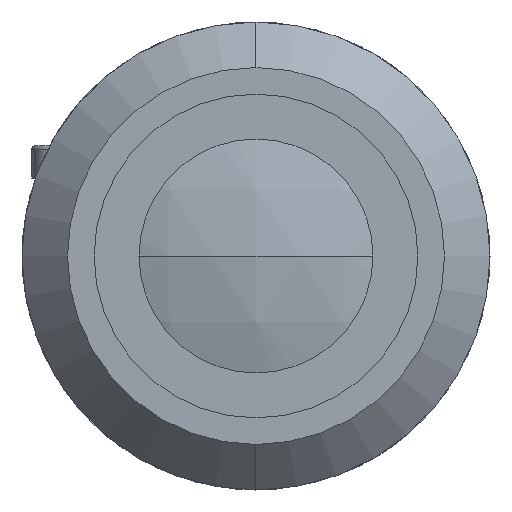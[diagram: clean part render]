
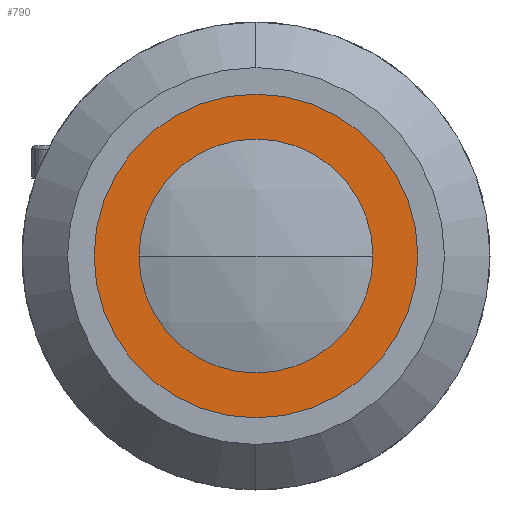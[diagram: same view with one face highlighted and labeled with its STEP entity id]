
A CAD part, left-side view. The second image highlights one B-rep face of the part: STEP entity #790.
In plain terms, the highlighted planar face has unit normal (-1, 0, 0).
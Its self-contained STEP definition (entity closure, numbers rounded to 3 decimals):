
#122 = CARTESIAN_POINT ( 'NONE',  ( 3.5, 0., 13.2 ) ) ;
#128 = CARTESIAN_POINT ( 'NONE',  ( 3.5, 13.2, 0. ) ) ;
#134 = AXIS2_PLACEMENT_3D ( 'NONE', #2368, #621, #2664 ) ;
#349 = AXIS2_PLACEMENT_3D ( 'NONE', #128, #706, #2741 ) ;
#621 = DIRECTION ( 'NONE',  ( -1., 0., 0. ) ) ;
#706 = DIRECTION ( 'NONE',  ( 1., 0., 0. ) ) ;
#790 = ADVANCED_FACE ( 'NONE', ( #2418, #2360 ), #3290, .F. ) ;
#842 = CIRCLE ( 'NONE', #2126, 13.2 ) ;
#888 = DIRECTION ( 'NONE',  ( -1., 0., 0. ) ) ;
#1057 = EDGE_CURVE ( 'NONE', #1380, #2433, #2071, .T. ) ;
#1187 = DIRECTION ( 'NONE',  ( -1., 0., 0. ) ) ;
#1264 = AXIS2_PLACEMENT_3D ( 'NONE', #2638, #888, #2937 ) ;
#1266 = VERTEX_POINT ( 'NONE', #122 ) ;
#1380 = VERTEX_POINT ( 'NONE', #1922 ) ;
#1398 = DIRECTION ( 'NONE',  ( -1., 0., 0. ) ) ;
#1535 = ORIENTED_EDGE ( 'NONE', *, *, #1057, .F. ) ;
#1540 = ORIENTED_EDGE ( 'NONE', *, *, #2803, .F. ) ;
#1550 = AXIS2_PLACEMENT_3D ( 'NONE', #3153, #1398, #3415 ) ;
#1584 = ORIENTED_EDGE ( 'NONE', *, *, #2928, .T. ) ;
#1616 = ORIENTED_EDGE ( 'NONE', *, *, #2316, .T. ) ;
#1821 = CIRCLE ( 'NONE', #1264, 13.2 ) ;
#1825 = CARTESIAN_POINT ( 'NONE',  ( 3.5, 0., -9. ) ) ;
#1834 = VERTEX_POINT ( 'NONE', #2656 ) ;
#1922 = CARTESIAN_POINT ( 'NONE',  ( 3.5, 0., 9. ) ) ;
#2015 = EDGE_LOOP ( 'NONE', ( #1535, #1540 ) ) ;
#2071 = CIRCLE ( 'NONE', #134, 9. ) ;
#2080 = EDGE_LOOP ( 'NONE', ( #1584, #1616 ) ) ;
#2126 = AXIS2_PLACEMENT_3D ( 'NONE', #2950, #1187, #3226 ) ;
#2237 = CIRCLE ( 'NONE', #1550, 9. ) ;
#2316 = EDGE_CURVE ( 'NONE', #1834, #1266, #842, .T. ) ;
#2360 = FACE_OUTER_BOUND ( 'NONE', #2080, .T. ) ;
#2368 = CARTESIAN_POINT ( 'NONE',  ( 3.5, 0., 0. ) ) ;
#2418 = FACE_BOUND ( 'NONE', #2015, .T. ) ;
#2433 = VERTEX_POINT ( 'NONE', #1825 ) ;
#2638 = CARTESIAN_POINT ( 'NONE',  ( 3.5, 0., 0. ) ) ;
#2656 = CARTESIAN_POINT ( 'NONE',  ( 3.5, 0., -13.2 ) ) ;
#2664 = DIRECTION ( 'NONE',  ( 0., 0., 1. ) ) ;
#2741 = DIRECTION ( 'NONE',  ( 0., 0., -1. ) ) ;
#2803 = EDGE_CURVE ( 'NONE', #2433, #1380, #2237, .T. ) ;
#2928 = EDGE_CURVE ( 'NONE', #1266, #1834, #1821, .T. ) ;
#2937 = DIRECTION ( 'NONE',  ( 0., 0., 1. ) ) ;
#2950 = CARTESIAN_POINT ( 'NONE',  ( 3.5, 0., 0. ) ) ;
#3153 = CARTESIAN_POINT ( 'NONE',  ( 3.5, 0., 0. ) ) ;
#3226 = DIRECTION ( 'NONE',  ( 0., 0., 1. ) ) ;
#3290 = PLANE ( 'NONE',  #349 ) ;
#3415 = DIRECTION ( 'NONE',  ( 0., 0., 1. ) ) ;
